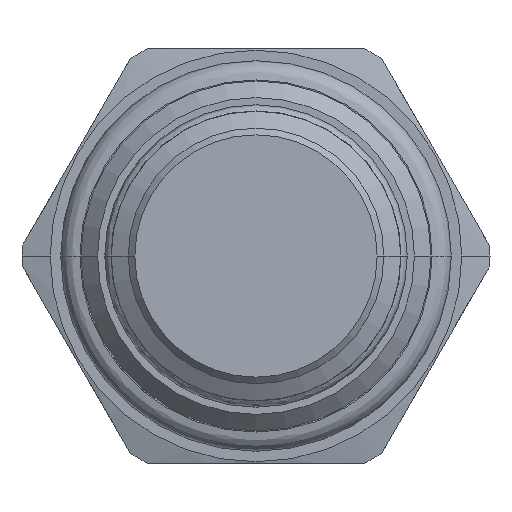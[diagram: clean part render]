
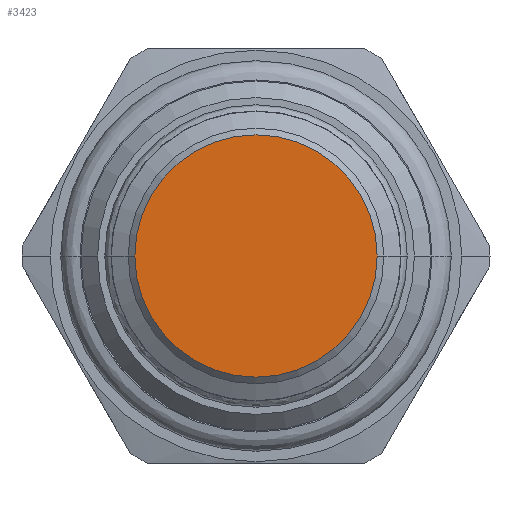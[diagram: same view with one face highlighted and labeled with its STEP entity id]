
A CAD part, front view. The second image highlights one B-rep face of the part: STEP entity #3423.
In plain terms, the highlighted planar face has unit normal (0, -1, 0).
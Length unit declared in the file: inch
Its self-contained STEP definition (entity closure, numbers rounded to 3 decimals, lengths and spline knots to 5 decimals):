
#968=CARTESIAN_POINT('',(0.,-2.39867,0.));
#969=DIRECTION('',(0.,1.,0.));
#970=DIRECTION('',(-1.,0.,0.));
#971=AXIS2_PLACEMENT_3D('',#968,#969,#970);
#978=CARTESIAN_POINT('',(0.,-2.39867,0.));
#979=DIRECTION('',(0.,1.,0.));
#980=DIRECTION('',(1.,0.,0.));
#981=AXIS2_PLACEMENT_3D('',#978,#979,#980);
#1845=CARTESIAN_POINT('',(-0.365,-2.39867,0.));
#1846=CARTESIAN_POINT('',(0.365,-2.39867,0.));
#1847=VERTEX_POINT('',#1845);
#1848=VERTEX_POINT('',#1846);
#3413=CARTESIAN_POINT('',(0.,-2.39867,0.));
#3414=DIRECTION('',(0.,-1.,0.));
#3415=DIRECTION('',(0.,0.,-1.));
#3416=AXIS2_PLACEMENT_3D('',#3413,#3414,#3415);
#3417=PLANE('',#3416);
#3419=ORIENTED_EDGE('',*,*,#3418,.T.);
#3420=ORIENTED_EDGE('',*,*,#3403,.T.);
#3421=EDGE_LOOP('',(#3419,#3420));
#3422=FACE_OUTER_BOUND('',#3421,.F.);
#3423=ADVANCED_FACE('',(#3422),#3417,.T.);
#972=CIRCLE('',#971,0.365);
#982=CIRCLE('',#981,0.365);
#3403=EDGE_CURVE('',#1847,#1848,#972,.T.);
#3418=EDGE_CURVE('',#1848,#1847,#982,.T.);
